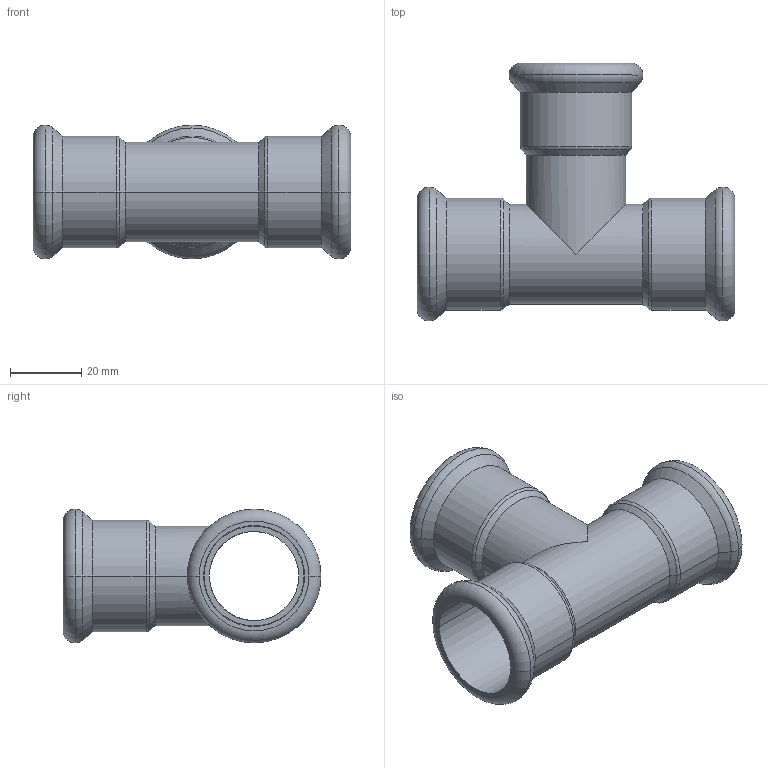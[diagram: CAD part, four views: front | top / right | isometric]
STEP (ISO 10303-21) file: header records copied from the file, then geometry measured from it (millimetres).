
FILE_DESCRIPTION(('CoCreate Modeling STEP Export'),'2;1');
FILE_NAME('C1414 28x28x28.stp','2014-11-11T16:56:11',(''),(''),'CoCreate Modeling STEP processor for AP214 (Solid Model)','CoCreate Modeling 17.00A 17-Jun-2010 (C) Parametric Technology GmbH','');
FILE_SCHEMA(('AUTOMOTIVE_DESIGN { 1 0 10303 214 1 1 1 1 }'));
Length unit declared in the file: millimetre
Products named in the file (2): C1414_28x28x28
Assembly tree (1 placements, depth 2):
  C1414_28x28x28
    C1414_28x28x28
Bounding box: 89 x 72.22 x 37.45 mm (x, y, z)
Volume: 23008.1 mm3; surface area: 24820.5 mm2
Topology: 1 solids, 1 shells, 65 faces, 141 edges, 83 vertices
Faces by surface type: cylinder 26, torus 18, cone 12, plane 9
Entity records: 1467 total; most frequent: ORIENTED_EDGE 282, DIRECTION 226, CARTESIAN_POINT 215, EDGE_CURVE 141, AXIS2_PLACEMENT_3D 94, VERTEX_POINT 83, EDGE_LOOP 74, FACE_OUTER_BOUND 65
